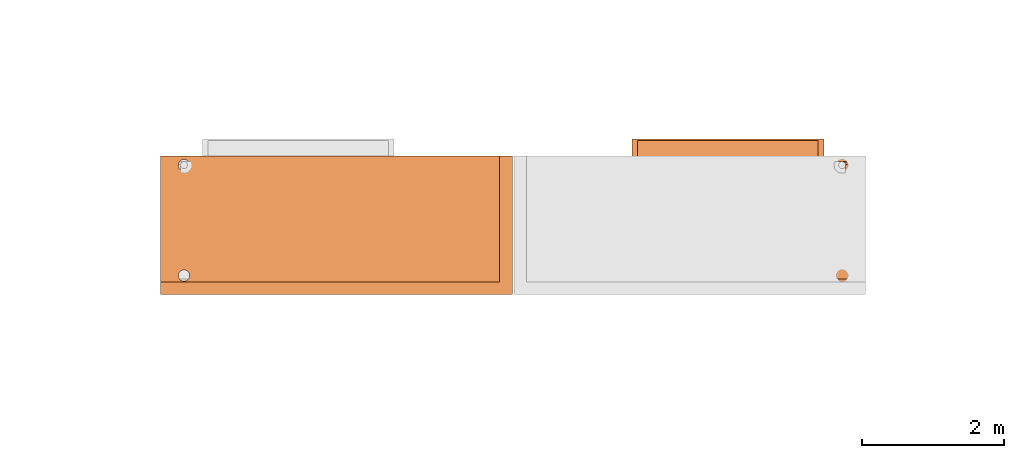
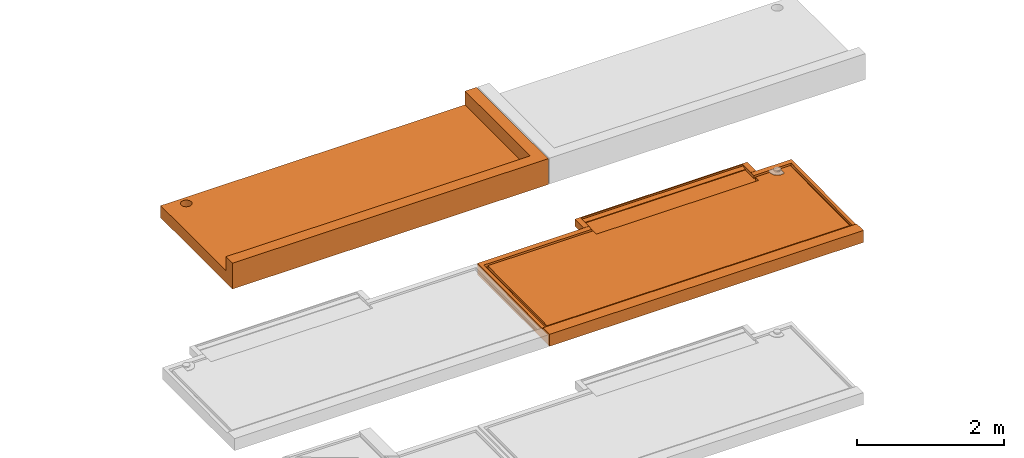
# One storey, part 7 of 31: 2 proxies, 2 elements without a shape of their own.
"""IFC2X3 building model written with IfcOpenShell, lengths in centimetres."""

from ifc_helpers import new_model, entity, si_unit, converted_unit, derived_unit, direction, frame, origin, place, context, subcontext, project, spatial, faceted_brep, source, transform, mapped, material, type_object, type_shapes, element, aggregate, save


model = new_model("IFC2X3")

# Units and contexts
model_context = context("Model", 3, precision=0.001, world=origin(), true_north=direction((6.12303176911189e-17, 1.0)))
body_context = subcontext(model_context, "Body", "Model", "MODEL_VIEW")
ifc_project = project(units=[si_unit("LENGTHUNIT", "METRE", prefix="CENTI"), si_unit("AREAUNIT", "SQUARE_METRE"), si_unit("VOLUMEUNIT", "CUBIC_METRE"), converted_unit("PLANEANGLEUNIT", "DEGREE", entity("IfcRatioMeasure", 0.0174532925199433), si_unit("PLANEANGLEUNIT", "RADIAN"), dimensions=[0, 0, 0, 0, 0, 0, 0]), si_unit("MASSUNIT", "GRAM", prefix="KILO"), derived_unit("MASSDENSITYUNIT", [(si_unit("MASSUNIT", "GRAM", prefix="KILO"), 1), (si_unit("LENGTHUNIT", "METRE"), -3)]), si_unit("TIMEUNIT", "SECOND"), si_unit("FREQUENCYUNIT", "HERTZ"), si_unit("THERMODYNAMICTEMPERATUREUNIT", "DEGREE_CELSIUS"), derived_unit("THERMALTRANSMITTANCEUNIT", [(si_unit("MASSUNIT", "GRAM", prefix="KILO"), 1), (si_unit("THERMODYNAMICTEMPERATUREUNIT", "KELVIN"), -1), (si_unit("TIMEUNIT", "SECOND"), -3)]), derived_unit("VOLUMETRICFLOWRATEUNIT", [(si_unit("LENGTHUNIT", "METRE"), 3), (si_unit("TIMEUNIT", "SECOND"), -1)]), si_unit("ELECTRICCURRENTUNIT", "AMPERE"), si_unit("ELECTRICVOLTAGEUNIT", "VOLT"), si_unit("POWERUNIT", "WATT"), si_unit("FORCEUNIT", "NEWTON"), si_unit("ILLUMINANCEUNIT", "LUX"), si_unit("LUMINOUSFLUXUNIT", "LUMEN"), si_unit("LUMINOUSINTENSITYUNIT", "CANDELA"), derived_unit("USERDEFINED", [(si_unit("MASSUNIT", "GRAM", prefix="KILO"), -1), (si_unit("LENGTHUNIT", "METRE"), -2), (si_unit("TIMEUNIT", "SECOND"), 3), (si_unit("LUMINOUSFLUXUNIT", "LUMEN"), 1)]), derived_unit("LINEARVELOCITYUNIT", [(si_unit("LENGTHUNIT", "METRE"), 1), (si_unit("TIMEUNIT", "SECOND"), -1)]), si_unit("PRESSUREUNIT", "PASCAL"), derived_unit("USERDEFINED", [(si_unit("LENGTHUNIT", "METRE"), -2), (si_unit("MASSUNIT", "GRAM", prefix="KILO"), 1), (si_unit("TIMEUNIT", "SECOND"), -2)])], contexts=[model_context])

# Site, building, storey
site_placement = place(None, origin())
site = spatial("IfcSite", under=ifc_project, at=site_placement, Name="Default", CompositionType="ELEMENT")
building_placement = place(site_placement, origin())
building = spatial("IfcBuilding", under=site, at=building_placement, Name="CAGE 03", CompositionType="ELEMENT")
storey_placement = place(building_placement, frame((0.0, 0.0, -400.0)))
storey = spatial("IfcBuildingStorey", under=building, at=storey_placement, Name="±0.00", CompositionType="ELEMENT", Elevation=-400.0)

# Assembly, proxy
assembly_1_placement = place(storey_placement, origin())
assembly_1 = element("IfcElementAssembly", 1, at=assembly_1_placement, inside=storey, Name="Assemblage Modèles génériques:BALCON TYPE 02", ObjectType="Assemblage Modèles génériques:BALCON TYPE 02", AssemblyPlace="NOTDEFINED", PredefinedType="USERDEFINED")
ifc_material = material(Name="Béton, panneaux préfa 30/37")
building_element_proxy_type_1 = type_object("IfcBuildingElementProxyType", Name="balcon préfa type 02", PredefinedType="NOTDEFINED", material=ifc_material)
shared_shape_1 = source(origin(), body_context, "Body", "Brep", [
    faceted_brep([(5.43744331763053, 18.4374433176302, 15.0), (488.562556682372, 18.4374433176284, 15.0), (488.562556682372, 187.56255668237, 15.0), (466.045257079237, 187.56255668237, 15.0), (467.05934075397, 186.954798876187, 15.0), (467.902378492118, 186.125930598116, 15.0), (468.527236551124, 185.122293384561, 15.0), (468.898979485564, 184.0, 15.0), (485.0, 184.0, 15.0), (485.0, 22.0, 15.0), (9.0, 22.0, 15.0), (9.0, 184.0, 15.0), (175.0, 184.0, 15.0), (175.0, 177.0, 15.0), (430.0, 177.0, 15.0), (430.0, 184.0, 15.0), (452.543560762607, 184.0, 15.0), (452.850476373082, 185.817467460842, 15.0), (453.443813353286, 187.56255668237, 15.0), (430.0, 187.56255668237, 15.0), (430.0, 211.0, 15.0), (175.0, 211.0, 15.0), (175.0, 187.562556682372, 15.0), (5.43744331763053, 187.562556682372, 15.0), (167.0, 196.0, 20.0), (175.0, 196.0, 20.0), (175.0, 218.0, 20.0), (430.0, 218.0, 20.0), (430.0, 196.0, 20.0), (438.0, 196.0, 20.0), (438.0, 212.0, 20.0), (438.0, 220.0, 20.0), (167.0, 220.0, 20.0), (167.0, 212.0, 20.0), (494.0, 0.0, 20.0), (494.0, 18.0, 20.0), (0.0, 18.0, 20.0), (0.0, 0.0, 20.0), (167.0, 220.0, 8.0), (438.0, 220.0, 8.0), (4.0, 194.0, 0.0), (4.0, 196.0, 0.0), (459.0, 183.0, 0.0), (459.170370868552, 181.70590477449, 0.0), (4.0, 4.0, 0.0), (459.170370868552, 184.294095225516, 0.0), (459.669872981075, 185.500000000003, 0.0), (460.464466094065, 186.535533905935, 0.0), (461.499999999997, 187.330127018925, 0.0), (462.705904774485, 187.829629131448, 0.0), (490.0, 196.0, 0.0), (464.0, 188.0, 0.0), (465.294095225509, 187.829629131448, 0.0), (466.499999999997, 187.330127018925, 0.0), (467.53553390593, 186.535533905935, 0.0), (490.0, 194.0, 0.0), (468.330127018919, 185.500000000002, 0.0), (468.829629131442, 184.294095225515, 0.0), (469.0, 183.0, 0.0), (468.829629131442, 181.70590477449, 0.0), (468.330127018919, 180.500000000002, 0.0), (467.535533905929, 179.46446609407, 0.0), (490.0, 4.0, 0.0), (459.669872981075, 180.500000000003, 0.0), (460.464466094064, 179.464466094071, 0.0), (461.499999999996, 178.669872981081, 0.0), (462.705904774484, 178.170370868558, 0.0), (464.0, 178.0, 0.0), (466.499999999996, 178.669872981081, 0.0), (465.294095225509, 178.170370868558, 0.0), (0.0, 196.0, 0.0), (3.0, 196.0, 0.0), (3.0, 194.0, 0.0), (3.0, 3.0, 0.0), (491.0, 3.0, 0.0), (491.0, 194.0, 0.0), (491.0, 196.0, 0.0), (494.0, 196.0, 0.0), (494.0, 194.0, 0.0), (494.0, 0.0, 0.0), (0.0, 0.0, 0.0), (0.0, 194.0, 0.0), (0.0, 18.189704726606, 17.83166505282), (5.18970472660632, 18.189704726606, 17.83166505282), (5.04116008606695, 187.958839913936, 19.5295380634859), (175.0, 187.958839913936, 19.5295380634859), (175.0, 194.0, 19.5899561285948), (175.0, 196.0, 19.6099582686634), (167.0, 196.0, 19.6099582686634), (0.0, 196.0, 19.6099582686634), (0.0, 194.0, 19.5899561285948), (9.0, 22.0, 17.8697720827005), (485.0, 22.0, 17.8697720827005), (485.0, 184.0, 19.4899454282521), (468.898979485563, 184.0, 19.4899454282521), (468.974680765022, 183.502544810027, 19.4849703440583), (469.0, 183.0, 19.4799443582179), (469.0, 172.643842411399, 19.3763717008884), (466.460376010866, 171.766276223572, 19.3675950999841), (463.786434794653, 171.501983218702, 19.3649518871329), (461.124152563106, 171.865391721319, 19.3685863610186), (458.618869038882, 172.836662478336, 19.3783001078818), (456.407353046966, 174.362771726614, 19.3935628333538), (454.610336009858, 176.360405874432, 19.413541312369), (453.325920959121, 178.720509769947, 19.4371448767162), (452.624226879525, 181.31424025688, 19.463084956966), (452.543560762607, 184.0, 19.4899454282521), (430.0, 184.0, 19.4899454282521), (430.0, 174.975098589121, 19.3996867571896), (175.0, 174.975098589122, 19.3996867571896), (175.0, 184.0, 19.4899454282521), (9.0, 184.0, 19.4899454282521), (438.0, 196.0, 19.6099582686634), (430.0, 196.0, 19.6099582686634), (430.0, 194.0, 19.5899561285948), (430.0, 187.958839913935, 19.5295380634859), (453.624070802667, 187.958839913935, 19.5295380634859), (453.633936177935, 187.979429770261, 19.5297439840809), (453.643842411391, 188.0, 19.5299497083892), (464.0, 188.0, 19.5299497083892), (464.32078063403, 187.989699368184, 19.5298466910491), (464.640239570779, 187.958839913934, 19.5295380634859), (488.958839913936, 187.958839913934, 19.5295380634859), (488.810295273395, 18.1897047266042, 17.83166505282), (494.0, 18.1897047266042, 17.83166505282), (494.0, 194.0, 19.5899561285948), (494.0, 196.0, 19.6099582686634), (430.0, 211.0, 15.9713250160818), (430.0, 218.0, 17.4999999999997), (430.0, 177.0, 16.9198129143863), (430.0, 175.000100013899, 16.8998117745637), (453.532066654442, 187.761551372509, 17.2745197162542), (453.578068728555, 187.860195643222, 18.4020288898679), (453.601069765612, 187.909517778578, 18.9657834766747), (453.612570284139, 187.934178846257, 19.2476607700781), (453.487940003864, 187.66205402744, 16.137259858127), (465.001449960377, 187.898683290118, 18.8419447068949), (465.357288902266, 187.812251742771, 17.8540276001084), (465.705847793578, 187.700008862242, 16.571085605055), (4.0, 4.0, 1.46630765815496), (490.0, 4.0, 1.46630765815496), (491.0, 3.0, 1.0), (3.0, 3.0, 1.0), (175.0, 218.0, 17.4999999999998), (167.0, 212.0, 8.0), (438.0, 212.0, 8.0), (438.0, 196.0, 8.0), (167.0, 196.0, 8.0), (491.0, 196.0, 1.0), (490.0, 196.0, 1.46630765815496), (4.0, 196.0, 1.46630765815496), (3.0, 196.0, 1.0), (175.0, 175.0001000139, 16.8998117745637), (175.0, 177.0, 16.9198129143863), (175.0, 211.0, 15.9713250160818), (491.0, 194.0, 1.0), (490.0, 194.0, 1.46630765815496), (3.0, 194.0, 1.0), (4.0, 194.0, 1.46630765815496), (452.735578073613, 185.315771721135, 7.69999999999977), (452.511272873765, 182.49093318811, 7.69999999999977), (452.984546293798, 179.697004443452, 7.69999999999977), (454.126661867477, 177.103628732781, 7.69999999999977), (455.868272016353, 174.868272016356, 7.69999999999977), (458.103628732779, 173.12666186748, 7.69999999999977), (460.69700444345, 171.984546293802, 7.69999999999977), (463.490933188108, 171.511272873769, 7.69999999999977), (466.315771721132, 171.735578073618, 7.69999999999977), (469.0, 172.643842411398, 7.69999999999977), (469.0, 183.0, 7.69999999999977), (468.829629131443, 181.70590477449, 7.69999999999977), (468.33012701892, 180.500000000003, 7.69999999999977), (467.53553390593, 179.46446609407, 7.69999999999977), (466.499999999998, 178.669872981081, 7.69999999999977), (465.294095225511, 178.170370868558, 7.69999999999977), (464.0, 178.0, 7.69999999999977), (462.705904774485, 178.170370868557, 7.69999999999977), (461.499999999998, 178.66987298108, 7.69999999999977), (460.464466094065, 179.46446609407, 7.69999999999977), (459.669872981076, 180.500000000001, 7.69999999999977), (459.170370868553, 181.705904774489, 7.69999999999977), (459.0, 183.0, 7.69999999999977), (459.170370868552, 184.294095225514, 7.69999999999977), (459.669872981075, 185.500000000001, 7.69999999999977), (460.464466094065, 186.535533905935, 7.69999999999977), (461.499999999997, 187.330127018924, 7.69999999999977), (462.705904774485, 187.829629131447, 7.69999999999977), (464.0, 188.0, 7.69999999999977), (453.643842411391, 188.0, 7.69999999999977), (453.643842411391, 188.0, 19.1602600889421), (453.643842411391, 188.0, 18.7905774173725), (453.643842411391, 188.0, 18.0512120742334), (453.643842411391, 188.0, 16.5724674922), (453.643842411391, 188.0, 15.0937229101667), (453.643842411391, 188.0, 13.6149783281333)], [[[0, 1, 2, 3, 4, 5, 6, 7, 8, 9, 10, 11, 12, 13, 14, 15, 16, 17, 18, 19, 20, 21, 22, 23]], [[24, 25, 26, 27, 28, 29, 30, 31, 32, 33]], [[34, 35, 36, 37]], [[38, 32, 31, 39]], [[40, 41, 42]], [[43, 40, 42]], [[43, 44, 40]], [[42, 41, 45]], [[45, 41, 46]], [[47, 46, 41]], [[48, 47, 41]], [[49, 48, 41]], [[41, 50, 49]], [[51, 49, 50]], [[52, 51, 50]], [[53, 52, 50]], [[50, 54, 53]], [[50, 55, 54]], [[56, 54, 55]], [[55, 57, 56]], [[58, 57, 55]], [[59, 58, 55]], [[55, 60, 59]], [[60, 55, 61]], [[61, 55, 62]], [[62, 44, 63]], [[62, 63, 64]], [[62, 64, 65]], [[62, 65, 66]], [[62, 66, 67]], [[61, 62, 68]], [[69, 68, 62]], [[69, 62, 67]], [[63, 44, 43]], [[70, 71, 72, 73, 74, 75, 76, 77, 78, 79, 80, 81]], [[37, 80, 79, 34]], [[82, 83, 84, 85, 86, 87, 88, 89, 90]], [[91, 92, 93, 94, 95, 96, 97, 98, 99, 100, 101, 102, 103, 104, 105, 106, 107, 108, 109, 110, 111]], [[112, 113, 114, 115, 116, 117, 118, 119, 120, 121, 122, 123, 124, 125, 126]], [[78, 77, 126, 125, 124, 35, 34, 79]], [[123, 1, 0, 83, 82, 36, 35, 124]], [[127, 20, 19, 115, 114, 113, 28, 27, 128]], [[107, 15, 14, 129, 130, 108]], [[85, 84, 23, 22]], [[131, 132, 133, 134, 116, 115, 19, 18, 135]], [[122, 121, 136, 137, 138, 3, 2]], [[10, 9, 92, 91]], [[139, 140, 141, 142]], [[26, 143, 128, 27]], [[144, 38, 39, 145, 146, 147]], [[89, 88, 147, 146, 112, 126, 77, 76, 148, 149, 50, 41, 150, 151, 71, 70]], [[152, 109, 108, 130]], [[153, 152, 130, 129]], [[13, 153, 129, 14]], [[80, 37, 36, 82, 90, 89, 70, 81]], [[143, 26, 25, 87, 86, 85, 22, 21, 154]], [[110, 109, 152, 153, 13, 12]], [[12, 11, 111, 110]], [[16, 15, 107, 106]], [[93, 8, 7, 94]], [[142, 141, 74, 73]], [[139, 44, 62, 140]], [[143, 154, 127, 128]], [[154, 21, 20, 127]], [[11, 10, 91, 111]], [[23, 84, 83, 0]], [[29, 28, 113, 112]], [[25, 24, 88, 87]], [[76, 75, 74, 141, 155, 148]], [[156, 140, 62, 55, 50, 149]], [[155, 141, 140, 156, 149, 148]], [[73, 72, 71, 151, 157, 142]], [[158, 150, 41, 40, 44, 139]], [[139, 142, 157, 151, 150, 158]], [[92, 9, 8, 93]], [[123, 122, 2, 1]], [[30, 29, 112, 146, 145, 39, 31]], [[33, 32, 38, 144, 147, 88, 24]], [[159, 160, 161, 162, 163, 164, 165, 166, 167, 168, 169, 170, 171, 172, 173, 174, 175, 176, 177, 178, 179, 180, 181, 182, 183, 184, 185, 186, 187, 188]], [[187, 119, 118, 189, 190, 191, 192, 193, 194, 188]], [[194, 18, 17]], [[159, 188, 17]], [[134, 189, 117]], [[135, 192, 131]], [[105, 160, 16]], [[17, 16, 159]], [[160, 159, 16]], [[105, 161, 160]], [[117, 116, 134]], [[189, 133, 190]], [[132, 191, 190]], [[16, 106, 105]], [[104, 161, 105]], [[133, 132, 190]], [[134, 133, 189]], [[188, 194, 17]], [[104, 162, 161]], [[163, 162, 103]], [[163, 102, 164]], [[99, 167, 166]], [[166, 165, 100]], [[165, 164, 101]], [[168, 167, 98]], [[132, 131, 191]], [[163, 103, 102]], [[164, 102, 101]], [[18, 193, 135]], [[18, 194, 193]], [[167, 99, 98]], [[118, 117, 189]], [[192, 191, 131]], [[97, 168, 98]], [[166, 100, 99]], [[100, 165, 101]], [[192, 135, 193]], [[104, 103, 162]], [[169, 168, 97, 96]], [[48, 49, 186, 185]], [[48, 185, 184, 47]], [[45, 46, 183, 182]], [[184, 183, 46, 47]], [[42, 45, 182, 181]], [[51, 187, 186, 49]], [[63, 43, 180, 179]], [[63, 179, 178, 64]], [[66, 65, 177, 176]], [[178, 177, 65, 64]], [[67, 66, 176, 175]], [[181, 180, 43, 42]], [[69, 174, 173, 68]], [[67, 175, 174, 69]], [[171, 170, 59, 60]], [[60, 61, 172, 171]], [[61, 68, 173, 172]], [[58, 59, 170, 169]], [[96, 95, 169]], [[7, 169, 95]], [[94, 7, 95]], [[57, 169, 7]], [[57, 58, 169]], [[6, 56, 57]], [[56, 6, 5]], [[5, 54, 56]], [[187, 51, 52]], [[53, 54, 4]], [[53, 3, 52]], [[5, 4, 54]], [[52, 136, 187]], [[53, 4, 3]], [[3, 138, 52]], [[136, 52, 137]], [[136, 121, 187]], [[137, 52, 138]], [[121, 120, 187]], [[187, 120, 119]], [[57, 7, 6]]]),
])
type_shapes(building_element_proxy_type_1, [shared_shape_1])
proxy_1_placement = place(assembly_1_placement, frame((5375.36582014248, 4474.6606660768, 990.0)))
proxy_1 = element("IfcBuildingElementProxy", 2, at=proxy_1_placement, type_object=building_element_proxy_type_1, material=ifc_material, Name="BY_STR_Balcon_préfa_02:balcon préfa type 02", ObjectType="balcon préfa type 02", context=body_context, shape_type="MappedRepresentation", body=[
    mapped(shared_shape_1, transform((0.0, 0.0, 0.0), scale=1.0)),
])
aggregate(assembly_1, [proxy_1])

assembly_2_placement = place(storey_placement, origin())
assembly_2 = element("IfcElementAssembly", 3, at=assembly_2_placement, inside=storey, Name="Assemblage Modèles génériques:BALCON TYPE 09", ObjectType="Assemblage Modèles génériques:BALCON TYPE 09", AssemblyPlace="NOTDEFINED", PredefinedType="USERDEFINED")
building_element_proxy_type_2 = type_object("IfcBuildingElementProxyType", Name="balcon préfa type 09", PredefinedType="NOTDEFINED", material=ifc_material)
shared_shape_2 = source(origin(), body_context, "Body", "Brep", [
    faceted_brep([(0.0, 3.0, 0.0), (2.0, 3.0, 0.0), (494.0, 3.0, 0.0), (494.0, 196.0, 0.0), (497.0, 196.0, 0.0), (497.0, 0.0, 0.0), (2.0, 0.0, 0.0), (0.0, 0.0, 0.0), (2.0, 196.0, 0.0), (26.0717967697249, 179.0, 0.0), (0.0, 196.0, 0.0), (25.2725933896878, 180.929447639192, 0.0), (25.0, 183.0, 0.0), (25.2725933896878, 185.070552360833, 0.0), (26.0717967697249, 187.0, 0.0), (27.3431457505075, 188.656854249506, 0.0), (29.0, 189.928203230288, 0.0), (30.9294476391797, 190.727406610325, 0.0), (33.0, 191.0, 0.0), (35.07055236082, 190.727406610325, 0.0), (493.0, 196.0, 0.0), (37.0, 189.928203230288, 0.0), (38.6568542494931, 188.656854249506, 0.0), (39.9282032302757, 187.0, 0.0), (40.7274066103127, 185.070552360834, 0.0), (41.0, 183.0, 0.0), (40.7274066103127, 180.929447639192, 0.0), (40.7274066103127, 29.0705523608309, 0.0), (493.0, 4.0, 0.0), (41.0, 27.0, 0.0), (40.7274066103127, 24.9294476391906, 0.0), (39.9282032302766, 23.0, 0.0), (38.6568542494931, 21.3431457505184, 0.0), (37.0, 20.0717967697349, 0.0), (2.0, 4.0, 0.0), (35.0705523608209, 19.2725933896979, 0.0), (33.0, 19.0, 0.0), (30.9294476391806, 19.2725933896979, 0.0), (29.0, 20.0717967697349, 0.0), (27.3431457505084, 21.3431457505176, 0.0), (26.0717967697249, 23.0, 0.0), (25.2725933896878, 24.9294476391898, 0.0), (25.0, 27.0, 0.0), (0.0, 4.0, 0.0), (25.2725933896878, 29.07055236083, 0.0), (26.0717967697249, 31.0, 0.0), (27.3431457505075, 32.6568542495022, 0.0), (39.9282032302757, 179.0, 0.0), (39.9282032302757, 31.0, 0.0), (38.6568542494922, 32.6568542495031, 0.0), (38.6568542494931, 177.34314575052, 0.0), (37.0, 33.9282032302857, 0.0), (37.0, 176.071796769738, 0.0), (35.07055236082, 34.7274066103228, 0.0), (35.0705523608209, 175.272593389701, 0.0), (33.0, 35.0, 0.0), (33.0, 175.0, 0.0), (30.9294476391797, 34.7274066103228, 0.0), (30.9294476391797, 175.272593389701, 0.0), (29.0, 33.9282032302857, 0.0), (29.0, 176.071796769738, 0.0), (27.3431457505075, 177.34314575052, 0.0), (494.0, 196.0, 1.0), (493.0, 196.0, 1.46630765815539), (0.0, 196.0, 20.0), (2.0, 196.0, 20.0), (479.0, 196.0, 20.0), (479.0, 196.0, 43.0), (497.0, 196.0, 43.0), (2.0, 3.0, 1.0), (494.0, 3.0, 1.0), (0.0, 3.0, 1.0), (493.0, 4.0, 1.46630765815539), (2.0, 4.0, 1.46630765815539), (0.0, 4.0, 1.46630765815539), (479.0, 18.0, 20.0), (479.0, 18.0, 43.0), (497.0, 0.0, 43.0), (2.0, 18.0, 20.0), (0.0, 18.0, 20.0), (0.0, 18.0, 43.0), (2.0, 18.0, 43.0), (2.0, 0.0, 43.0), (0.0, 0.0, 43.0), (0.0, 0.0, 20.0), (26.0717967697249, 31.0, 20.0), (25.2725933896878, 29.07055236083, 20.0), (25.0, 27.0, 20.0), (25.2725933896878, 24.9294476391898, 20.0), (26.0717967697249, 23.0, 20.0), (27.3431457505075, 21.3431457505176, 20.0), (29.0, 20.0717967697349, 20.0), (30.9294476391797, 19.2725933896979, 20.0), (33.0, 19.0, 20.0), (35.0705523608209, 19.2725933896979, 20.0), (37.0, 20.0717967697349, 20.0), (38.6568542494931, 21.3431457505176, 20.0), (39.9282032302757, 23.0, 20.0), (40.7274066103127, 24.9294476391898, 20.0), (41.0, 27.0, 20.0), (40.7274066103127, 29.0705523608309, 20.0), (40.7274066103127, 180.929447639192, 20.0), (41.0, 183.0, 20.0), (40.7274066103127, 185.070552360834, 20.0), (39.9282032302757, 187.0, 20.0), (38.6568542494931, 188.656854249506, 20.0), (37.0, 189.928203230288, 20.0), (35.07055236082, 190.727406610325, 20.0), (33.0, 191.0, 20.0), (30.9294476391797, 190.727406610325, 20.0), (29.0, 189.928203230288, 20.0), (27.3431457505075, 188.656854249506, 20.0), (26.0717967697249, 187.0, 20.0), (25.2725933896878, 185.070552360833, 20.0), (25.0, 183.0, 20.0), (25.2725933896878, 180.929447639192, 20.0), (26.0717967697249, 179.0, 20.0), (27.3431457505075, 177.34314575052, 20.0), (27.3431457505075, 32.6568542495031, 20.0), (29.0, 33.9282032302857, 20.0), (29.0, 176.071796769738, 20.0), (30.9294476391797, 34.7274066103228, 20.0), (30.9294476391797, 175.272593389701, 20.0), (33.0, 35.0, 20.0), (33.0, 175.0, 20.0), (35.07055236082, 34.7274066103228, 20.0), (35.0705523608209, 175.272593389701, 20.0), (37.0, 33.9282032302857, 20.0), (37.0, 176.071796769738, 20.0), (38.6568542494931, 32.6568542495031, 20.0), (38.6568542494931, 177.34314575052, 20.0), (39.9282032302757, 31.0, 20.0), (39.9282032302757, 179.0, 20.0)], [[[0, 1, 2, 3, 4, 5, 6, 7]], [[0, 1, 6]], [[6, 7, 0]], [[1, 2, 6]], [[2, 5, 6]], [[5, 2, 4]], [[3, 4, 2]], [[8, 9, 10]], [[9, 8, 11]], [[12, 11, 8]], [[13, 12, 8]], [[13, 8, 14]], [[14, 8, 15]], [[16, 15, 8]], [[17, 16, 8]], [[18, 17, 8]], [[8, 19, 18]], [[19, 8, 20]], [[21, 19, 20]], [[22, 21, 20]], [[20, 23, 22]], [[23, 20, 24]], [[24, 20, 25]], [[26, 25, 20]], [[20, 27, 26]], [[28, 27, 20]], [[28, 29, 27]], [[29, 28, 30]], [[31, 30, 28]], [[31, 28, 32]], [[33, 32, 28]], [[33, 28, 34]], [[33, 34, 35]], [[35, 34, 36]], [[34, 37, 36]], [[38, 37, 34]], [[39, 38, 34]], [[34, 40, 39]], [[41, 40, 34]], [[42, 41, 34]], [[43, 42, 34]], [[44, 42, 43]], [[45, 44, 43]], [[43, 10, 45]], [[46, 45, 10]], [[27, 47, 26]], [[48, 47, 27]], [[49, 47, 48]], [[49, 50, 47]], [[51, 50, 49]], [[50, 51, 52]], [[53, 52, 51]], [[53, 54, 52]], [[55, 54, 53]], [[55, 56, 54]], [[55, 57, 56]], [[56, 57, 58]], [[59, 58, 57]], [[59, 46, 60]], [[59, 60, 58]], [[9, 61, 10]], [[10, 61, 46]], [[46, 61, 60]], [[3, 62, 63, 20, 8, 10, 64, 65, 66, 67, 68, 4]], [[69, 70, 2, 1, 0, 71]], [[34, 28, 72, 73, 74, 43]], [[69, 71, 74, 73, 72, 70]], [[70, 62, 3, 2]], [[67, 66, 75, 76]], [[4, 68, 77, 5]], [[72, 63, 62, 70]], [[76, 75, 78, 79, 80, 81]], [[5, 77, 82, 83, 84, 7, 6]], [[0, 7, 84, 83, 80, 79, 64, 10, 43, 74, 71]], [[78, 85, 79]], [[85, 78, 86]], [[87, 86, 78]], [[88, 87, 78]], [[88, 78, 89]], [[89, 78, 90]], [[91, 90, 78]], [[92, 91, 78]], [[93, 92, 78]], [[78, 75, 93]], [[94, 93, 75]], [[95, 94, 75]], [[96, 95, 75]], [[75, 97, 96]], [[97, 75, 98]], [[98, 75, 99]], [[100, 99, 75]], [[75, 101, 100]], [[66, 101, 75]], [[66, 102, 101]], [[102, 66, 103]], [[104, 103, 66]], [[104, 66, 105]], [[106, 105, 66]], [[107, 106, 66]], [[107, 66, 65]], [[107, 65, 108]], [[65, 109, 108]], [[110, 109, 65]], [[111, 110, 65]], [[65, 112, 111]], [[113, 112, 65]], [[114, 113, 65]], [[115, 114, 65]], [[116, 115, 65]], [[64, 116, 65]], [[116, 64, 117]], [[117, 64, 79]], [[79, 118, 117]], [[85, 118, 79]], [[117, 118, 119]], [[120, 117, 119]], [[121, 120, 119]], [[120, 121, 122]], [[123, 122, 121]], [[124, 122, 123]], [[124, 123, 125]], [[124, 125, 126]], [[126, 125, 127]], [[126, 127, 128]], [[129, 128, 127]], [[128, 129, 130]], [[130, 129, 131]], [[101, 131, 100]], [[130, 131, 132]], [[132, 131, 101]], [[28, 20, 63, 72]], [[76, 81, 80, 83, 82, 77, 68, 67]], [[113, 13, 14, 112]], [[15, 111, 112, 14]], [[110, 16, 17, 109]], [[15, 16, 110, 111]], [[109, 17, 18, 108]], [[13, 113, 114, 12]], [[107, 19, 21, 106]], [[22, 105, 106, 21]], [[104, 23, 24, 103]], [[22, 23, 104, 105]], [[103, 24, 25, 102]], [[19, 107, 108, 18]], [[25, 26, 101, 102]], [[128, 52, 54, 126]], [[52, 128, 130, 50]], [[56, 124, 126, 54]], [[101, 26, 47, 132]], [[47, 50, 130, 132]], [[122, 58, 60, 120]], [[61, 117, 120, 60]], [[116, 9, 11, 115]], [[61, 9, 116, 117]], [[115, 11, 12, 114]], [[58, 122, 124, 56]], [[86, 44, 45, 85]], [[46, 118, 85, 45]], [[119, 59, 57, 121]], [[46, 59, 119, 118]], [[121, 57, 55, 123]], [[44, 86, 87, 42]], [[125, 53, 51, 127]], [[49, 129, 127, 51]], [[131, 48, 27, 100]], [[49, 48, 131, 129]], [[100, 27, 29, 99]], [[53, 125, 123, 55]], [[29, 30, 98, 99]], [[95, 33, 35, 94]], [[33, 95, 96, 32]], [[36, 93, 94, 35]], [[98, 30, 31, 97]], [[31, 32, 96, 97]], [[92, 37, 38, 91]], [[39, 90, 91, 38]], [[89, 40, 41, 88]], [[39, 40, 89, 90]], [[88, 41, 42, 87]], [[37, 92, 93, 36]]]),
])
type_shapes(building_element_proxy_type_2, [shared_shape_2])
proxy_2_placement = place(assembly_2_placement, frame((4876.36582014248, 4474.66066607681, 1260.0)))
proxy_2 = element("IfcBuildingElementProxy", 4, at=proxy_2_placement, type_object=building_element_proxy_type_2, material=ifc_material, Name="BY_STR_Balcon_préfa_09-10:balcon préfa type 09", ObjectType="balcon préfa type 09", context=body_context, shape_type="MappedRepresentation", body=[
    mapped(shared_shape_2, transform((0.0, 0.0, 0.0), scale=1.0)),
])
aggregate(assembly_2, [proxy_2])

save(model, "model.ifc")
